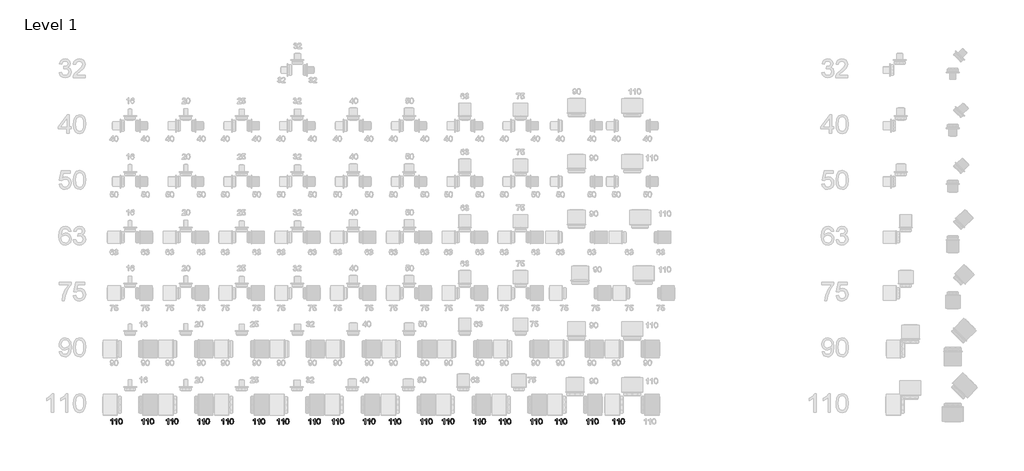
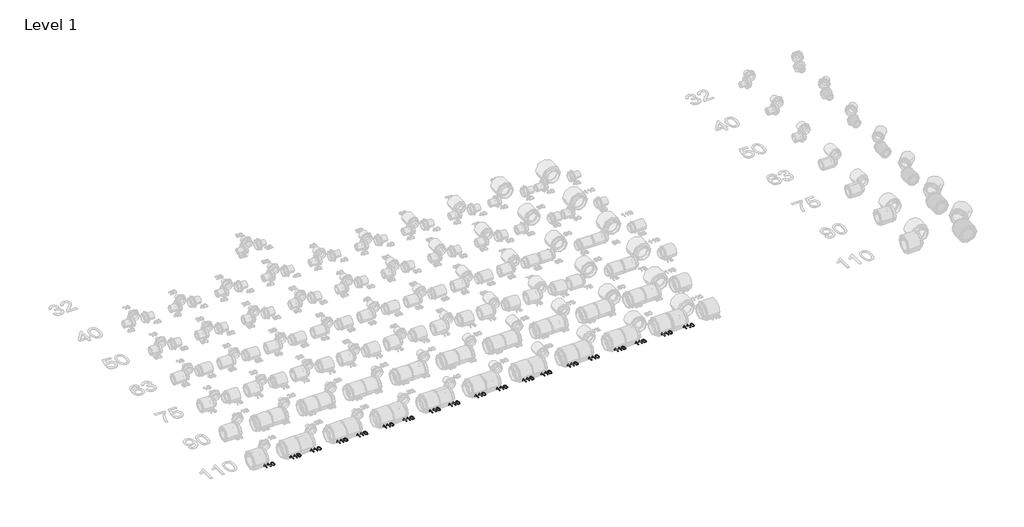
# One storey, part 17 of 58: 19 proxies.
"""IFC4 building model written with IfcOpenShell, lengths in millimetres."""

from ifc_helpers import new_model, si_unit, frame, origin, place, context, project, spatial, polyline, outline, extrude, element, save

model = new_model("IFC4")

# Units and contexts
model_context = context("Model", 3, world=origin())
ifc_project = project(units=[si_unit("LENGTHUNIT", "METRE", prefix="MILLI")], contexts=[model_context])

# Site, building, storey
site = spatial("IfcSite", under=ifc_project)
building = spatial("IfcBuilding", under=site)
storey = spatial("IfcBuildingStorey", under=building, Name="Level 1", Elevation=27.3876384)

# Proxies
placement = place(None, origin())
element("IfcBuildingElementProxy", 1, Name="30mm Arial", ObjectType="30mm Arial", at=placement, inside=storey, context=model_context, shape_type="SweptSolid", body=[
    extrude(outline(polyline([(13172.6620986, 15842.5788539), (13168.894987, 15842.5788539), (13168.894987, 15866.0644405), (13165.3265317, 15863.5223759), (13161.3607637, 15861.620426), (13161.3607637, 15865.1815237), (13166.8826725, 15868.7058332), (13170.2340775, 15872.715747), (13172.6620986, 15872.715747), (13172.6620986, 15842.5788539)])), frame((0.0, 0.0, 27.3876384), z_axis=(0.0, 0.0, 1.0), x_axis=(1.0, 0.0, 0.0)), (0.0, 0.0, 1.0), 2.0),
    extrude(outline(polyline([(13195.7356574, 15842.5788539), (13191.9685457, 15842.5788539), (13191.9685457, 15866.0644405), (13188.4000904, 15863.5223759), (13184.4343225, 15861.620426), (13184.4343225, 15865.1815237), (13189.9562312, 15868.7058332), (13193.3076362, 15872.715747), (13195.7356574, 15872.715747), (13195.7356574, 15842.5788539)])), frame((0.0, 0.0, 27.3876384), z_axis=(0.0, 0.0, 1.0), x_axis=(1.0, 0.0, 0.0)), (0.0, 0.0, 1.0), 2.0),
    extrude(outline(polyline([(13204.6825475, 15857.4044983), (13205.7898723, 15866.075477), (13209.0787373, 15871.0749933), (13214.5712155, 15872.715747), (13218.9710842, 15871.7445385), (13222.0097895, 15868.9449565), (13223.775623, 15864.4862267), (13224.4598836, 15857.4044983), (13223.3635952, 15848.7703079), (13220.0857666, 15843.7597551), (13214.5712155, 15842.107965), (13207.6844646, 15844.9774445), (13204.6825475, 15857.4044983)]), holes=[polyline([(13208.4496591, 15857.411856), (13210.2154927, 15848.0566168), (13214.5712155, 15845.8750766), (13218.9269384, 15848.0639745), (13220.6927719, 15857.411856), (13218.9857995, 15866.6604093), (13214.5270697, 15868.9486353), (13210.2743538, 15866.932642), (13208.4496591, 15857.411856)])]), frame((0.0, 0.0, 27.3876384), z_axis=(0.0, 0.0, 1.0), x_axis=(1.0, 0.0, 0.0)), (0.0, 0.0, 1.0), 2.0),
])
element("IfcBuildingElementProxy", 2, Name="30mm Arial", ObjectType="30mm Arial", at=placement, inside=storey, context=model_context, shape_type="SweptSolid", body=[
    extrude(outline(polyline([(13341.4120986, 15842.5788539), (13337.644987, 15842.5788539), (13337.644987, 15866.0644405), (13334.0765317, 15863.5223759), (13330.1107637, 15861.620426), (13330.1107637, 15865.1815237), (13335.6326725, 15868.7058332), (13338.9840775, 15872.715747), (13341.4120986, 15872.715747), (13341.4120986, 15842.5788539)])), frame((0.0, 0.0, 27.3876384), z_axis=(0.0, 0.0, 1.0), x_axis=(1.0, 0.0, 0.0)), (0.0, 0.0, 1.0), 2.0),
    extrude(outline(polyline([(13364.4856574, 15842.5788539), (13360.7185457, 15842.5788539), (13360.7185457, 15866.0644405), (13357.1500904, 15863.5223759), (13353.1843225, 15861.620426), (13353.1843225, 15865.1815237), (13358.7062312, 15868.7058332), (13362.0576362, 15872.715747), (13364.4856574, 15872.715747), (13364.4856574, 15842.5788539)])), frame((0.0, 0.0, 27.3876384), z_axis=(0.0, 0.0, 1.0), x_axis=(1.0, 0.0, 0.0)), (0.0, 0.0, 1.0), 2.0),
    extrude(outline(polyline([(13373.4325475, 15857.4044983), (13374.5398723, 15866.075477), (13377.8287373, 15871.0749933), (13383.3212155, 15872.715747), (13387.7210842, 15871.7445385), (13390.7597895, 15868.9449565), (13392.525623, 15864.4862267), (13393.2098836, 15857.4044983), (13392.1135952, 15848.7703079), (13388.8357666, 15843.7597551), (13383.3212155, 15842.107965), (13376.4344646, 15844.9774445), (13373.4325475, 15857.4044983)]), holes=[polyline([(13377.1996591, 15857.411856), (13378.9654927, 15848.0566168), (13383.3212155, 15845.8750766), (13387.6769384, 15848.0639745), (13389.4427719, 15857.411856), (13387.7357995, 15866.6604093), (13383.2770697, 15868.9486353), (13379.0243538, 15866.932642), (13377.1996591, 15857.411856)])]), frame((0.0, 0.0, 27.3876384), z_axis=(0.0, 0.0, 1.0), x_axis=(1.0, 0.0, 0.0)), (0.0, 0.0, 1.0), 2.0),
])
element("IfcBuildingElementProxy", 3, Name="30mm Arial", ObjectType="30mm Arial", at=placement, inside=storey, context=model_context, shape_type="SweptSolid", body=[
    extrude(outline(polyline([(13472.6620986, 15842.5788539), (13468.894987, 15842.5788539), (13468.894987, 15866.0644405), (13465.3265317, 15863.5223759), (13461.3607637, 15861.620426), (13461.3607637, 15865.1815237), (13466.8826725, 15868.7058332), (13470.2340775, 15872.715747), (13472.6620986, 15872.715747), (13472.6620986, 15842.5788539)])), frame((0.0, 0.0, 27.3876384), z_axis=(0.0, 0.0, 1.0), x_axis=(1.0, 0.0, 0.0)), (0.0, 0.0, 1.0), 2.0),
    extrude(outline(polyline([(13495.7356574, 15842.5788539), (13491.9685457, 15842.5788539), (13491.9685457, 15866.0644405), (13488.4000904, 15863.5223759), (13484.4343225, 15861.620426), (13484.4343225, 15865.1815237), (13489.9562312, 15868.7058332), (13493.3076362, 15872.715747), (13495.7356574, 15872.715747), (13495.7356574, 15842.5788539)])), frame((0.0, 0.0, 27.3876384), z_axis=(0.0, 0.0, 1.0), x_axis=(1.0, 0.0, 0.0)), (0.0, 0.0, 1.0), 2.0),
    extrude(outline(polyline([(13504.6825475, 15857.4044983), (13505.7898723, 15866.075477), (13509.0787373, 15871.0749933), (13514.5712155, 15872.715747), (13518.9710842, 15871.7445385), (13522.0097895, 15868.9449565), (13523.775623, 15864.4862267), (13524.4598836, 15857.4044983), (13523.3635952, 15848.7703079), (13520.0857666, 15843.7597551), (13514.5712155, 15842.107965), (13507.6844646, 15844.9774445), (13504.6825475, 15857.4044983)]), holes=[polyline([(13508.4496591, 15857.411856), (13510.2154927, 15848.0566168), (13514.5712155, 15845.8750766), (13518.9269384, 15848.0639745), (13520.6927719, 15857.411856), (13518.9857995, 15866.6604093), (13514.5270697, 15868.9486353), (13510.2743538, 15866.932642), (13508.4496591, 15857.411856)])]), frame((0.0, 0.0, 27.3876384), z_axis=(0.0, 0.0, 1.0), x_axis=(1.0, 0.0, 0.0)), (0.0, 0.0, 1.0), 2.0),
])
element("IfcBuildingElementProxy", 4, Name="30mm Arial", ObjectType="30mm Arial", at=placement, inside=storey, context=model_context, shape_type="SweptSolid", body=[
    extrude(outline(polyline([(13641.4120986, 15842.5788539), (13637.644987, 15842.5788539), (13637.644987, 15866.0644405), (13634.0765317, 15863.5223759), (13630.1107637, 15861.620426), (13630.1107637, 15865.1815237), (13635.6326725, 15868.7058332), (13638.9840775, 15872.715747), (13641.4120986, 15872.715747), (13641.4120986, 15842.5788539)])), frame((0.0, 0.0, 27.3876384), z_axis=(0.0, 0.0, 1.0), x_axis=(1.0, 0.0, 0.0)), (0.0, 0.0, 1.0), 2.0),
    extrude(outline(polyline([(13664.4856574, 15842.5788539), (13660.7185457, 15842.5788539), (13660.7185457, 15866.0644405), (13657.1500904, 15863.5223759), (13653.1843225, 15861.620426), (13653.1843225, 15865.1815237), (13658.7062312, 15868.7058332), (13662.0576362, 15872.715747), (13664.4856574, 15872.715747), (13664.4856574, 15842.5788539)])), frame((0.0, 0.0, 27.3876384), z_axis=(0.0, 0.0, 1.0), x_axis=(1.0, 0.0, 0.0)), (0.0, 0.0, 1.0), 2.0),
    extrude(outline(polyline([(13673.4325475, 15857.4044983), (13674.5398723, 15866.075477), (13677.8287373, 15871.0749933), (13683.3212155, 15872.715747), (13687.7210842, 15871.7445385), (13690.7597895, 15868.9449565), (13692.525623, 15864.4862267), (13693.2098836, 15857.4044983), (13692.1135952, 15848.7703079), (13688.8357666, 15843.7597551), (13683.3212155, 15842.107965), (13676.4344646, 15844.9774445), (13673.4325475, 15857.4044983)]), holes=[polyline([(13677.1996591, 15857.411856), (13678.9654927, 15848.0566168), (13683.3212155, 15845.8750766), (13687.6769384, 15848.0639745), (13689.4427719, 15857.411856), (13687.7357995, 15866.6604093), (13683.2770697, 15868.9486353), (13679.0243538, 15866.932642), (13677.1996591, 15857.411856)])]), frame((0.0, 0.0, 27.3876384), z_axis=(0.0, 0.0, 1.0), x_axis=(1.0, 0.0, 0.0)), (0.0, 0.0, 1.0), 2.0),
])
element("IfcBuildingElementProxy", 5, Name="30mm Arial", ObjectType="30mm Arial", at=placement, inside=storey, context=model_context, shape_type="SweptSolid", body=[
    extrude(outline(polyline([(13770.6620986, 15842.5788539), (13766.894987, 15842.5788539), (13766.894987, 15866.0644405), (13763.3265317, 15863.5223759), (13759.3607637, 15861.620426), (13759.3607637, 15865.1815237), (13764.8826725, 15868.7058332), (13768.2340775, 15872.715747), (13770.6620986, 15872.715747), (13770.6620986, 15842.5788539)])), frame((0.0, 0.0, 27.3876384), z_axis=(0.0, 0.0, 1.0), x_axis=(1.0, 0.0, 0.0)), (0.0, 0.0, 1.0), 2.0),
    extrude(outline(polyline([(13793.7356574, 15842.5788539), (13789.9685457, 15842.5788539), (13789.9685457, 15866.0644405), (13786.4000904, 15863.5223759), (13782.4343225, 15861.620426), (13782.4343225, 15865.1815237), (13787.9562312, 15868.7058332), (13791.3076362, 15872.715747), (13793.7356574, 15872.715747), (13793.7356574, 15842.5788539)])), frame((0.0, 0.0, 27.3876384), z_axis=(0.0, 0.0, 1.0), x_axis=(1.0, 0.0, 0.0)), (0.0, 0.0, 1.0), 2.0),
    extrude(outline(polyline([(13802.6825475, 15857.4044983), (13803.7898723, 15866.075477), (13807.0787373, 15871.0749933), (13812.5712155, 15872.715747), (13816.9710842, 15871.7445385), (13820.0097895, 15868.9449565), (13821.775623, 15864.4862267), (13822.4598836, 15857.4044983), (13821.3635952, 15848.7703079), (13818.0857666, 15843.7597551), (13812.5712155, 15842.107965), (13805.6844646, 15844.9774445), (13802.6825475, 15857.4044983)]), holes=[polyline([(13806.4496591, 15857.411856), (13808.2154927, 15848.0566168), (13812.5712155, 15845.8750766), (13816.9269384, 15848.0639745), (13818.6927719, 15857.411856), (13816.9857995, 15866.6604093), (13812.5270697, 15868.9486353), (13808.2743538, 15866.932642), (13806.4496591, 15857.411856)])]), frame((0.0, 0.0, 27.3876384), z_axis=(0.0, 0.0, 1.0), x_axis=(1.0, 0.0, 0.0)), (0.0, 0.0, 1.0), 2.0),
])
element("IfcBuildingElementProxy", 6, Name="30mm Arial", ObjectType="30mm Arial", at=placement, inside=storey, context=model_context, shape_type="SweptSolid", body=[
    extrude(outline(polyline([(13939.4120986, 15842.5788539), (13935.644987, 15842.5788539), (13935.644987, 15866.0644405), (13932.0765317, 15863.5223759), (13928.1107637, 15861.620426), (13928.1107637, 15865.1815237), (13933.6326725, 15868.7058332), (13936.9840775, 15872.715747), (13939.4120986, 15872.715747), (13939.4120986, 15842.5788539)])), frame((0.0, 0.0, 27.3876384), z_axis=(0.0, 0.0, 1.0), x_axis=(1.0, 0.0, 0.0)), (0.0, 0.0, 1.0), 2.0),
    extrude(outline(polyline([(13962.4856574, 15842.5788539), (13958.7185457, 15842.5788539), (13958.7185457, 15866.0644405), (13955.1500904, 15863.5223759), (13951.1843225, 15861.620426), (13951.1843225, 15865.1815237), (13956.7062312, 15868.7058332), (13960.0576362, 15872.715747), (13962.4856574, 15872.715747), (13962.4856574, 15842.5788539)])), frame((0.0, 0.0, 27.3876384), z_axis=(0.0, 0.0, 1.0), x_axis=(1.0, 0.0, 0.0)), (0.0, 0.0, 1.0), 2.0),
    extrude(outline(polyline([(13971.4325475, 15857.4044983), (13972.5398723, 15866.075477), (13975.8287373, 15871.0749933), (13981.3212155, 15872.715747), (13985.7210842, 15871.7445385), (13988.7597895, 15868.9449565), (13990.525623, 15864.4862267), (13991.2098836, 15857.4044983), (13990.1135952, 15848.7703079), (13986.8357666, 15843.7597551), (13981.3212155, 15842.107965), (13974.4344646, 15844.9774445), (13971.4325475, 15857.4044983)]), holes=[polyline([(13975.1996591, 15857.411856), (13976.9654927, 15848.0566168), (13981.3212155, 15845.8750766), (13985.6769384, 15848.0639745), (13987.4427719, 15857.411856), (13985.7357995, 15866.6604093), (13981.2770697, 15868.9486353), (13977.0243538, 15866.932642), (13975.1996591, 15857.411856)])]), frame((0.0, 0.0, 27.3876384), z_axis=(0.0, 0.0, 1.0), x_axis=(1.0, 0.0, 0.0)), (0.0, 0.0, 1.0), 2.0),
])
element("IfcBuildingElementProxy", 7, Name="30mm Arial", ObjectType="30mm Arial", at=placement, inside=storey, context=model_context, shape_type="SweptSolid", body=[
    extrude(outline(polyline([(15562.6620986, 15842.5788539), (15558.894987, 15842.5788539), (15558.894987, 15866.0644405), (15555.3265317, 15863.5223759), (15551.3607637, 15861.620426), (15551.3607637, 15865.1815237), (15556.8826725, 15868.7058332), (15560.2340775, 15872.715747), (15562.6620986, 15872.715747), (15562.6620986, 15842.5788539)])), frame((0.0, 0.0, 27.3876384), z_axis=(0.0, 0.0, 1.0), x_axis=(1.0, 0.0, 0.0)), (0.0, 0.0, 1.0), 2.0),
    extrude(outline(polyline([(15585.7356574, 15842.5788539), (15581.9685457, 15842.5788539), (15581.9685457, 15866.0644405), (15578.4000904, 15863.5223759), (15574.4343225, 15861.620426), (15574.4343225, 15865.1815237), (15579.9562312, 15868.7058332), (15583.3076362, 15872.715747), (15585.7356574, 15872.715747), (15585.7356574, 15842.5788539)])), frame((0.0, 0.0, 27.3876384), z_axis=(0.0, 0.0, 1.0), x_axis=(1.0, 0.0, 0.0)), (0.0, 0.0, 1.0), 2.0),
    extrude(outline(polyline([(15594.6825475, 15857.4044983), (15595.7898723, 15866.075477), (15599.0787373, 15871.0749933), (15604.5712155, 15872.715747), (15608.9710842, 15871.7445385), (15612.0097895, 15868.9449565), (15613.775623, 15864.4862267), (15614.4598836, 15857.4044983), (15613.3635952, 15848.7703079), (15610.0857666, 15843.7597551), (15604.5712155, 15842.107965), (15597.6844646, 15844.9774445), (15594.6825475, 15857.4044983)]), holes=[polyline([(15598.4496591, 15857.411856), (15600.2154927, 15848.0566168), (15604.5712155, 15845.8750766), (15608.9269384, 15848.0639745), (15610.6927719, 15857.411856), (15608.9857995, 15866.6604093), (15604.5270697, 15868.9486353), (15600.2743538, 15866.932642), (15598.4496591, 15857.411856)])]), frame((0.0, 0.0, 27.3876384), z_axis=(0.0, 0.0, 1.0), x_axis=(1.0, 0.0, 0.0)), (0.0, 0.0, 1.0), 2.0),
])
element("IfcBuildingElementProxy", 8, Name="30mm Arial", ObjectType="30mm Arial", at=placement, inside=storey, context=model_context, shape_type="SweptSolid", body=[
    extrude(outline(polyline([(15731.4120986, 15842.5788539), (15727.644987, 15842.5788539), (15727.644987, 15866.0644405), (15724.0765317, 15863.5223759), (15720.1107637, 15861.620426), (15720.1107637, 15865.1815237), (15725.6326725, 15868.7058332), (15728.9840775, 15872.715747), (15731.4120986, 15872.715747), (15731.4120986, 15842.5788539)])), frame((0.0, 0.0, 27.3876384), z_axis=(0.0, 0.0, 1.0), x_axis=(1.0, 0.0, 0.0)), (0.0, 0.0, 1.0), 2.0),
    extrude(outline(polyline([(15754.4856574, 15842.5788539), (15750.7185457, 15842.5788539), (15750.7185457, 15866.0644405), (15747.1500904, 15863.5223759), (15743.1843225, 15861.620426), (15743.1843225, 15865.1815237), (15748.7062312, 15868.7058332), (15752.0576362, 15872.715747), (15754.4856574, 15872.715747), (15754.4856574, 15842.5788539)])), frame((0.0, 0.0, 27.3876384), z_axis=(0.0, 0.0, 1.0), x_axis=(1.0, 0.0, 0.0)), (0.0, 0.0, 1.0), 2.0),
    extrude(outline(polyline([(15763.4325475, 15857.4044983), (15764.5398723, 15866.075477), (15767.8287373, 15871.0749933), (15773.3212155, 15872.715747), (15777.7210842, 15871.7445385), (15780.7597895, 15868.9449565), (15782.525623, 15864.4862267), (15783.2098836, 15857.4044983), (15782.1135952, 15848.7703079), (15778.8357666, 15843.7597551), (15773.3212155, 15842.107965), (15766.4344646, 15844.9774445), (15763.4325475, 15857.4044983)]), holes=[polyline([(15767.1996591, 15857.411856), (15768.9654927, 15848.0566168), (15773.3212155, 15845.8750766), (15777.6769384, 15848.0639745), (15779.4427719, 15857.411856), (15777.7357995, 15866.6604093), (15773.2770697, 15868.9486353), (15769.0243538, 15866.932642), (15767.1996591, 15857.411856)])]), frame((0.0, 0.0, 27.3876384), z_axis=(0.0, 0.0, 1.0), x_axis=(1.0, 0.0, 0.0)), (0.0, 0.0, 1.0), 2.0),
])
element("IfcBuildingElementProxy", 9, Name="30mm Arial", ObjectType="30mm Arial", at=placement, inside=storey, context=model_context, shape_type="SweptSolid", body=[
    extrude(outline(polyline([(15872.6620986, 15842.5788539), (15868.894987, 15842.5788539), (15868.894987, 15866.0644405), (15865.3265317, 15863.5223759), (15861.3607637, 15861.620426), (15861.3607637, 15865.1815237), (15866.8826725, 15868.7058332), (15870.2340775, 15872.715747), (15872.6620986, 15872.715747), (15872.6620986, 15842.5788539)])), frame((0.0, 0.0, 27.3876384), z_axis=(0.0, 0.0, 1.0), x_axis=(1.0, 0.0, 0.0)), (0.0, 0.0, 1.0), 2.0),
    extrude(outline(polyline([(15895.7356574, 15842.5788539), (15891.9685457, 15842.5788539), (15891.9685457, 15866.0644405), (15888.4000904, 15863.5223759), (15884.4343225, 15861.620426), (15884.4343225, 15865.1815237), (15889.9562312, 15868.7058332), (15893.3076362, 15872.715747), (15895.7356574, 15872.715747), (15895.7356574, 15842.5788539)])), frame((0.0, 0.0, 27.3876384), z_axis=(0.0, 0.0, 1.0), x_axis=(1.0, 0.0, 0.0)), (0.0, 0.0, 1.0), 2.0),
    extrude(outline(polyline([(15904.6825475, 15857.4044983), (15905.7898723, 15866.075477), (15909.0787373, 15871.0749933), (15914.5712155, 15872.715747), (15918.9710842, 15871.7445385), (15922.0097895, 15868.9449565), (15923.775623, 15864.4862267), (15924.4598836, 15857.4044983), (15923.3635952, 15848.7703079), (15920.0857666, 15843.7597551), (15914.5712155, 15842.107965), (15907.6844646, 15844.9774445), (15904.6825475, 15857.4044983)]), holes=[polyline([(15908.4496591, 15857.411856), (15910.2154927, 15848.0566168), (15914.5712155, 15845.8750766), (15918.9269384, 15848.0639745), (15920.6927719, 15857.411856), (15918.9857995, 15866.6604093), (15914.5270697, 15868.9486353), (15910.2743538, 15866.932642), (15908.4496591, 15857.411856)])]), frame((0.0, 0.0, 27.3876384), z_axis=(0.0, 0.0, 1.0), x_axis=(1.0, 0.0, 0.0)), (0.0, 0.0, 1.0), 2.0),
])
element("IfcBuildingElementProxy", 10, Name="30mm Arial", ObjectType="30mm Arial", at=placement, inside=storey, context=model_context, shape_type="SweptSolid", body=[
    extrude(outline(polyline([(14069.0934558, 15842.5788539), (14065.3263441, 15842.5788539), (14065.3263441, 15866.0644405), (14061.7578888, 15863.5223759), (14057.7921209, 15861.620426), (14057.7921209, 15865.1815237), (14063.3140296, 15868.7058332), (14066.6654346, 15872.715747), (14069.0934558, 15872.715747), (14069.0934558, 15842.5788539)])), frame((0.0, 0.0, 27.3876384), z_axis=(0.0, 0.0, 1.0), x_axis=(1.0, 0.0, 0.0)), (0.0, 0.0, 1.0), 2.0),
    extrude(outline(polyline([(14092.1670145, 15842.5788539), (14088.3999029, 15842.5788539), (14088.3999029, 15866.0644405), (14084.8314475, 15863.5223759), (14080.8656796, 15861.620426), (14080.8656796, 15865.1815237), (14086.3875884, 15868.7058332), (14089.7389933, 15872.715747), (14092.1670145, 15872.715747), (14092.1670145, 15842.5788539)])), frame((0.0, 0.0, 27.3876384), z_axis=(0.0, 0.0, 1.0), x_axis=(1.0, 0.0, 0.0)), (0.0, 0.0, 1.0), 2.0),
    extrude(outline(polyline([(14101.1139046, 15857.4044983), (14102.2212294, 15866.075477), (14105.5100945, 15871.0749933), (14111.0025727, 15872.715747), (14115.4024413, 15871.7445385), (14118.4411466, 15868.9449565), (14120.2069802, 15864.4862267), (14120.8912407, 15857.4044983), (14119.7949523, 15848.7703079), (14116.5171238, 15843.7597551), (14111.0025727, 15842.107965), (14104.1158217, 15844.9774445), (14101.1139046, 15857.4044983)]), holes=[polyline([(14104.8810163, 15857.411856), (14106.6468498, 15848.0566168), (14111.0025727, 15845.8750766), (14115.3582955, 15848.0639745), (14117.1241291, 15857.411856), (14115.4171566, 15866.6604093), (14110.9584268, 15868.9486353), (14106.705711, 15866.932642), (14104.8810163, 15857.411856)])]), frame((0.0, 0.0, 27.3876384), z_axis=(0.0, 0.0, 1.0), x_axis=(1.0, 0.0, 0.0)), (0.0, 0.0, 1.0), 2.0),
])
element("IfcBuildingElementProxy", 11, Name="30mm Arial", ObjectType="30mm Arial", at=placement, inside=storey, context=model_context, shape_type="SweptSolid", body=[
    extrude(outline(polyline([(14237.8434558, 15842.5788539), (14234.0763441, 15842.5788539), (14234.0763441, 15866.0644405), (14230.5078888, 15863.5223759), (14226.5421209, 15861.620426), (14226.5421209, 15865.1815237), (14232.0640296, 15868.7058332), (14235.4154346, 15872.715747), (14237.8434558, 15872.715747), (14237.8434558, 15842.5788539)])), frame((0.0, 0.0, 27.3876384), z_axis=(0.0, 0.0, 1.0), x_axis=(1.0, 0.0, 0.0)), (0.0, 0.0, 1.0), 2.0),
    extrude(outline(polyline([(14260.9170145, 15842.5788539), (14257.1499029, 15842.5788539), (14257.1499029, 15866.0644405), (14253.5814475, 15863.5223759), (14249.6156796, 15861.620426), (14249.6156796, 15865.1815237), (14255.1375884, 15868.7058332), (14258.4889933, 15872.715747), (14260.9170145, 15872.715747), (14260.9170145, 15842.5788539)])), frame((0.0, 0.0, 27.3876384), z_axis=(0.0, 0.0, 1.0), x_axis=(1.0, 0.0, 0.0)), (0.0, 0.0, 1.0), 2.0),
    extrude(outline(polyline([(14269.8639046, 15857.4044983), (14270.9712294, 15866.075477), (14274.2600945, 15871.0749933), (14279.7525727, 15872.715747), (14284.1524413, 15871.7445385), (14287.1911466, 15868.9449565), (14288.9569802, 15864.4862267), (14289.6412407, 15857.4044983), (14288.5449523, 15848.7703079), (14285.2671238, 15843.7597551), (14279.7525727, 15842.107965), (14272.8658217, 15844.9774445), (14269.8639046, 15857.4044983)]), holes=[polyline([(14273.6310163, 15857.411856), (14275.3968498, 15848.0566168), (14279.7525727, 15845.8750766), (14284.1082955, 15848.0639745), (14285.8741291, 15857.411856), (14284.1671566, 15866.6604093), (14279.7084268, 15868.9486353), (14275.455711, 15866.932642), (14273.6310163, 15857.411856)])]), frame((0.0, 0.0, 27.3876384), z_axis=(0.0, 0.0, 1.0), x_axis=(1.0, 0.0, 0.0)), (0.0, 0.0, 1.0), 2.0),
])
element("IfcBuildingElementProxy", 12, Name="30mm Arial", ObjectType="30mm Arial", at=placement, inside=storey, context=model_context, shape_type="SweptSolid", body=[
    extrude(outline(polyline([(14363.0706135, 15842.5788539), (14359.3035019, 15842.5788539), (14359.3035019, 15866.0644405), (14355.7350466, 15863.5223759), (14351.7692786, 15861.620426), (14351.7692786, 15865.1815237), (14357.2911874, 15868.7058332), (14360.6425924, 15872.715747), (14363.0706135, 15872.715747), (14363.0706135, 15842.5788539)])), frame((0.0, 0.0, 27.3876384), z_axis=(0.0, 0.0, 1.0), x_axis=(1.0, 0.0, 0.0)), (0.0, 0.0, 1.0), 2.0),
    extrude(outline(polyline([(14386.1441723, 15842.5788539), (14382.3770606, 15842.5788539), (14382.3770606, 15866.0644405), (14378.8086053, 15863.5223759), (14374.8428374, 15861.620426), (14374.8428374, 15865.1815237), (14380.3647461, 15868.7058332), (14383.7161511, 15872.715747), (14386.1441723, 15872.715747), (14386.1441723, 15842.5788539)])), frame((0.0, 0.0, 27.3876384), z_axis=(0.0, 0.0, 1.0), x_axis=(1.0, 0.0, 0.0)), (0.0, 0.0, 1.0), 2.0),
    extrude(outline(polyline([(14395.0910624, 15857.4044983), (14396.1983872, 15866.075477), (14399.4872522, 15871.0749933), (14404.9797304, 15872.715747), (14409.3795991, 15871.7445385), (14412.4183044, 15868.9449565), (14414.1841379, 15864.4862267), (14414.8683985, 15857.4044983), (14413.7721101, 15848.7703079), (14410.4942815, 15843.7597551), (14404.9797304, 15842.107965), (14398.0929795, 15844.9774445), (14395.0910624, 15857.4044983)]), holes=[polyline([(14398.858174, 15857.411856), (14400.6240076, 15848.0566168), (14404.9797304, 15845.8750766), (14409.3354533, 15848.0639745), (14411.1012868, 15857.411856), (14409.3943144, 15866.6604093), (14404.9355846, 15868.9486353), (14400.6828687, 15866.932642), (14398.858174, 15857.411856)])]), frame((0.0, 0.0, 27.3876384), z_axis=(0.0, 0.0, 1.0), x_axis=(1.0, 0.0, 0.0)), (0.0, 0.0, 1.0), 2.0),
])
element("IfcBuildingElementProxy", 13, Name="30mm Arial", ObjectType="30mm Arial", at=placement, inside=storey, context=model_context, shape_type="SweptSolid", body=[
    extrude(outline(polyline([(14531.8206135, 15842.5788539), (14528.0535019, 15842.5788539), (14528.0535019, 15866.0644405), (14524.4850466, 15863.5223759), (14520.5192786, 15861.620426), (14520.5192786, 15865.1815237), (14526.0411874, 15868.7058332), (14529.3925924, 15872.715747), (14531.8206135, 15872.715747), (14531.8206135, 15842.5788539)])), frame((0.0, 0.0, 27.3876384), z_axis=(0.0, 0.0, 1.0), x_axis=(1.0, 0.0, 0.0)), (0.0, 0.0, 1.0), 2.0),
    extrude(outline(polyline([(14554.8941723, 15842.5788539), (14551.1270606, 15842.5788539), (14551.1270606, 15866.0644405), (14547.5586053, 15863.5223759), (14543.5928374, 15861.620426), (14543.5928374, 15865.1815237), (14549.1147461, 15868.7058332), (14552.4661511, 15872.715747), (14554.8941723, 15872.715747), (14554.8941723, 15842.5788539)])), frame((0.0, 0.0, 27.3876384), z_axis=(0.0, 0.0, 1.0), x_axis=(1.0, 0.0, 0.0)), (0.0, 0.0, 1.0), 2.0),
    extrude(outline(polyline([(14563.8410624, 15857.4044983), (14564.9483872, 15866.075477), (14568.2372522, 15871.0749933), (14573.7297304, 15872.715747), (14578.1295991, 15871.7445385), (14581.1683044, 15868.9449565), (14582.9341379, 15864.4862267), (14583.6183985, 15857.4044983), (14582.5221101, 15848.7703079), (14579.2442815, 15843.7597551), (14573.7297304, 15842.107965), (14566.8429795, 15844.9774445), (14563.8410624, 15857.4044983)]), holes=[polyline([(14567.608174, 15857.411856), (14569.3740076, 15848.0566168), (14573.7297304, 15845.8750766), (14578.0854533, 15848.0639745), (14579.8512868, 15857.411856), (14578.1443144, 15866.6604093), (14573.6855846, 15868.9486353), (14569.4328687, 15866.932642), (14567.608174, 15857.411856)])]), frame((0.0, 0.0, 27.3876384), z_axis=(0.0, 0.0, 1.0), x_axis=(1.0, 0.0, 0.0)), (0.0, 0.0, 1.0), 2.0),
])
element("IfcBuildingElementProxy", 14, Name="30mm Arial", ObjectType="30mm Arial", at=placement, inside=storey, context=model_context, shape_type="SweptSolid", body=[
    extrude(outline(polyline([(14670.4103694, 15842.5788539), (14666.6432578, 15842.5788539), (14666.6432578, 15866.0644405), (14663.0748024, 15863.5223759), (14659.1090345, 15861.620426), (14659.1090345, 15865.1815237), (14664.6309432, 15868.7058332), (14667.9823482, 15872.715747), (14670.4103694, 15872.715747), (14670.4103694, 15842.5788539)])), frame((0.0, 0.0, 27.3876384), z_axis=(0.0, 0.0, 1.0), x_axis=(1.0, 0.0, 0.0)), (0.0, 0.0, 1.0), 2.0),
    extrude(outline(polyline([(14693.4839281, 15842.5788539), (14689.7168165, 15842.5788539), (14689.7168165, 15866.0644405), (14686.1483611, 15863.5223759), (14682.1825932, 15861.620426), (14682.1825932, 15865.1815237), (14687.704502, 15868.7058332), (14691.055907, 15872.715747), (14693.4839281, 15872.715747), (14693.4839281, 15842.5788539)])), frame((0.0, 0.0, 27.3876384), z_axis=(0.0, 0.0, 1.0), x_axis=(1.0, 0.0, 0.0)), (0.0, 0.0, 1.0), 2.0),
    extrude(outline(polyline([(14702.4308182, 15857.4044983), (14703.5381431, 15866.075477), (14706.8270081, 15871.0749933), (14712.3194863, 15872.715747), (14716.7193549, 15871.7445385), (14719.7580602, 15868.9449565), (14721.5238938, 15864.4862267), (14722.2081543, 15857.4044983), (14721.111866, 15848.7703079), (14717.8340374, 15843.7597551), (14712.3194863, 15842.107965), (14705.4327353, 15844.9774445), (14702.4308182, 15857.4044983)]), holes=[polyline([(14706.1979299, 15857.411856), (14707.9637635, 15848.0566168), (14712.3194863, 15845.8750766), (14716.6752091, 15848.0639745), (14718.4410427, 15857.411856), (14716.7340702, 15866.6604093), (14712.2753404, 15868.9486353), (14708.0226246, 15866.932642), (14706.1979299, 15857.411856)])]), frame((0.0, 0.0, 27.3876384), z_axis=(0.0, 0.0, 1.0), x_axis=(1.0, 0.0, 0.0)), (0.0, 0.0, 1.0), 2.0),
])
element("IfcBuildingElementProxy", 15, Name="30mm Arial", ObjectType="30mm Arial", at=placement, inside=storey, context=model_context, shape_type="SweptSolid", body=[
    extrude(outline(polyline([(14839.1603694, 15842.5788539), (14835.3932578, 15842.5788539), (14835.3932578, 15866.0644405), (14831.8248024, 15863.5223759), (14827.8590345, 15861.620426), (14827.8590345, 15865.1815237), (14833.3809432, 15868.7058332), (14836.7323482, 15872.715747), (14839.1603694, 15872.715747), (14839.1603694, 15842.5788539)])), frame((0.0, 0.0, 27.3876384), z_axis=(0.0, 0.0, 1.0), x_axis=(1.0, 0.0, 0.0)), (0.0, 0.0, 1.0), 2.0),
    extrude(outline(polyline([(14862.2339281, 15842.5788539), (14858.4668165, 15842.5788539), (14858.4668165, 15866.0644405), (14854.8983611, 15863.5223759), (14850.9325932, 15861.620426), (14850.9325932, 15865.1815237), (14856.454502, 15868.7058332), (14859.805907, 15872.715747), (14862.2339281, 15872.715747), (14862.2339281, 15842.5788539)])), frame((0.0, 0.0, 27.3876384), z_axis=(0.0, 0.0, 1.0), x_axis=(1.0, 0.0, 0.0)), (0.0, 0.0, 1.0), 2.0),
    extrude(outline(polyline([(14871.1808182, 15857.4044983), (14872.2881431, 15866.075477), (14875.5770081, 15871.0749933), (14881.0694863, 15872.715747), (14885.4693549, 15871.7445385), (14888.5080602, 15868.9449565), (14890.2738938, 15864.4862267), (14890.9581543, 15857.4044983), (14889.861866, 15848.7703079), (14886.5840374, 15843.7597551), (14881.0694863, 15842.107965), (14874.1827353, 15844.9774445), (14871.1808182, 15857.4044983)]), holes=[polyline([(14874.9479299, 15857.411856), (14876.7137635, 15848.0566168), (14881.0694863, 15845.8750766), (14885.4252091, 15848.0639745), (14887.1910427, 15857.411856), (14885.4840702, 15866.6604093), (14881.0253404, 15868.9486353), (14876.7726246, 15866.932642), (14874.9479299, 15857.411856)])]), frame((0.0, 0.0, 27.3876384), z_axis=(0.0, 0.0, 1.0), x_axis=(1.0, 0.0, 0.0)), (0.0, 0.0, 1.0), 2.0),
])
element("IfcBuildingElementProxy", 16, Name="30mm Arial", ObjectType="30mm Arial", at=placement, inside=storey, context=model_context, shape_type="SweptSolid", body=[
    extrude(outline(polyline([(14956.5926783, 15842.5788539), (14952.8255666, 15842.5788539), (14952.8255666, 15866.0644405), (14949.2571113, 15863.5223759), (14945.2913434, 15861.620426), (14945.2913434, 15865.1815237), (14950.8132521, 15868.7058332), (14954.1646571, 15872.715747), (14956.5926783, 15872.715747), (14956.5926783, 15842.5788539)])), frame((0.0, 0.0, 27.3876384), z_axis=(0.0, 0.0, 1.0), x_axis=(1.0, 0.0, 0.0)), (0.0, 0.0, 1.0), 2.0),
    extrude(outline(polyline([(14979.666237, 15842.5788539), (14975.8991254, 15842.5788539), (14975.8991254, 15866.0644405), (14972.33067, 15863.5223759), (14968.3649021, 15861.620426), (14968.3649021, 15865.1815237), (14973.8868109, 15868.7058332), (14977.2382158, 15872.715747), (14979.666237, 15872.715747), (14979.666237, 15842.5788539)])), frame((0.0, 0.0, 27.3876384), z_axis=(0.0, 0.0, 1.0), x_axis=(1.0, 0.0, 0.0)), (0.0, 0.0, 1.0), 2.0),
    extrude(outline(polyline([(14988.6131271, 15857.4044983), (14989.7204519, 15866.075477), (14993.009317, 15871.0749933), (14998.5017952, 15872.715747), (15002.9016638, 15871.7445385), (15005.9403691, 15868.9449565), (15007.7062027, 15864.4862267), (15008.3904632, 15857.4044983), (15007.2941749, 15848.7703079), (15004.0163463, 15843.7597551), (14998.5017952, 15842.107965), (14991.6150442, 15844.9774445), (14988.6131271, 15857.4044983)]), holes=[polyline([(14992.3802388, 15857.411856), (14994.1460723, 15848.0566168), (14998.5017952, 15845.8750766), (15002.857518, 15848.0639745), (15004.6233516, 15857.411856), (15002.9163791, 15866.6604093), (14998.4576493, 15868.9486353), (14994.2049335, 15866.932642), (14992.3802388, 15857.411856)])]), frame((0.0, 0.0, 27.3876384), z_axis=(0.0, 0.0, 1.0), x_axis=(1.0, 0.0, 0.0)), (0.0, 0.0, 1.0), 2.0),
])
element("IfcBuildingElementProxy", 17, Name="30mm Arial", ObjectType="30mm Arial", at=placement, inside=storey, context=model_context, shape_type="SweptSolid", body=[
    extrude(outline(polyline([(15125.3426783, 15842.5788539), (15121.5755666, 15842.5788539), (15121.5755666, 15866.0644405), (15118.0071113, 15863.5223759), (15114.0413434, 15861.620426), (15114.0413434, 15865.1815237), (15119.5632521, 15868.7058332), (15122.9146571, 15872.715747), (15125.3426783, 15872.715747), (15125.3426783, 15842.5788539)])), frame((0.0, 0.0, 27.3876384), z_axis=(0.0, 0.0, 1.0), x_axis=(1.0, 0.0, 0.0)), (0.0, 0.0, 1.0), 2.0),
    extrude(outline(polyline([(15148.416237, 15842.5788539), (15144.6491254, 15842.5788539), (15144.6491254, 15866.0644405), (15141.08067, 15863.5223759), (15137.1149021, 15861.620426), (15137.1149021, 15865.1815237), (15142.6368109, 15868.7058332), (15145.9882158, 15872.715747), (15148.416237, 15872.715747), (15148.416237, 15842.5788539)])), frame((0.0, 0.0, 27.3876384), z_axis=(0.0, 0.0, 1.0), x_axis=(1.0, 0.0, 0.0)), (0.0, 0.0, 1.0), 2.0),
    extrude(outline(polyline([(15157.3631271, 15857.4044983), (15158.4704519, 15866.075477), (15161.759317, 15871.0749933), (15167.2517952, 15872.715747), (15171.6516638, 15871.7445385), (15174.6903691, 15868.9449565), (15176.4562027, 15864.4862267), (15177.1404632, 15857.4044983), (15176.0441749, 15848.7703079), (15172.7663463, 15843.7597551), (15167.2517952, 15842.107965), (15160.3650442, 15844.9774445), (15157.3631271, 15857.4044983)]), holes=[polyline([(15161.1302388, 15857.411856), (15162.8960723, 15848.0566168), (15167.2517952, 15845.8750766), (15171.607518, 15848.0639745), (15173.3733516, 15857.411856), (15171.6663791, 15866.6604093), (15167.2076493, 15868.9486353), (15162.9549335, 15866.932642), (15161.1302388, 15857.411856)])]), frame((0.0, 0.0, 27.3876384), z_axis=(0.0, 0.0, 1.0), x_axis=(1.0, 0.0, 0.0)), (0.0, 0.0, 1.0), 2.0),
])
element("IfcBuildingElementProxy", 18, Name="30mm Arial", ObjectType="30mm Arial", at=placement, inside=storey, context=model_context, shape_type="SweptSolid", body=[
    extrude(outline(polyline([(15261.7053344, 15842.5788539), (15257.9382228, 15842.5788539), (15257.9382228, 15866.0644405), (15254.3697675, 15863.5223759), (15250.4039996, 15861.620426), (15250.4039996, 15865.1815237), (15255.9259083, 15868.7058332), (15259.2773133, 15872.715747), (15261.7053344, 15872.715747), (15261.7053344, 15842.5788539)])), frame((0.0, 0.0, 27.3876384), z_axis=(0.0, 0.0, 1.0), x_axis=(1.0, 0.0, 0.0)), (0.0, 0.0, 1.0), 2.0),
    extrude(outline(polyline([(15284.7788932, 15842.5788539), (15281.0117816, 15842.5788539), (15281.0117816, 15866.0644405), (15277.4433262, 15863.5223759), (15273.4775583, 15861.620426), (15273.4775583, 15865.1815237), (15278.999467, 15868.7058332), (15282.350872, 15872.715747), (15284.7788932, 15872.715747), (15284.7788932, 15842.5788539)])), frame((0.0, 0.0, 27.3876384), z_axis=(0.0, 0.0, 1.0), x_axis=(1.0, 0.0, 0.0)), (0.0, 0.0, 1.0), 2.0),
    extrude(outline(polyline([(15293.7257833, 15857.4044983), (15294.8331081, 15866.075477), (15298.1219732, 15871.0749933), (15303.6144513, 15872.715747), (15308.01432, 15871.7445385), (15311.0530253, 15868.9449565), (15312.8188589, 15864.4862267), (15313.5031194, 15857.4044983), (15312.406831, 15848.7703079), (15309.1290024, 15843.7597551), (15303.6144513, 15842.107965), (15296.7277004, 15844.9774445), (15293.7257833, 15857.4044983)]), holes=[polyline([(15297.4928949, 15857.411856), (15299.2587285, 15848.0566168), (15303.6144513, 15845.8750766), (15307.9701742, 15848.0639745), (15309.7360077, 15857.411856), (15308.0290353, 15866.6604093), (15303.5703055, 15868.9486353), (15299.3175896, 15866.932642), (15297.4928949, 15857.411856)])]), frame((0.0, 0.0, 27.3876384), z_axis=(0.0, 0.0, 1.0), x_axis=(1.0, 0.0, 0.0)), (0.0, 0.0, 1.0), 2.0),
])
element("IfcBuildingElementProxy", 19, Name="30mm Arial", ObjectType="30mm Arial", at=placement, inside=storey, context=model_context, shape_type="SweptSolid", body=[
    extrude(outline(polyline([(15430.4553344, 15842.5788539), (15426.6882228, 15842.5788539), (15426.6882228, 15866.0644405), (15423.1197675, 15863.5223759), (15419.1539996, 15861.620426), (15419.1539996, 15865.1815237), (15424.6759083, 15868.7058332), (15428.0273133, 15872.715747), (15430.4553344, 15872.715747), (15430.4553344, 15842.5788539)])), frame((0.0, 0.0, 27.3876384), z_axis=(0.0, 0.0, 1.0), x_axis=(1.0, 0.0, 0.0)), (0.0, 0.0, 1.0), 2.0),
    extrude(outline(polyline([(15453.5288932, 15842.5788539), (15449.7617816, 15842.5788539), (15449.7617816, 15866.0644405), (15446.1933262, 15863.5223759), (15442.2275583, 15861.620426), (15442.2275583, 15865.1815237), (15447.749467, 15868.7058332), (15451.100872, 15872.715747), (15453.5288932, 15872.715747), (15453.5288932, 15842.5788539)])), frame((0.0, 0.0, 27.3876384), z_axis=(0.0, 0.0, 1.0), x_axis=(1.0, 0.0, 0.0)), (0.0, 0.0, 1.0), 2.0),
    extrude(outline(polyline([(15462.4757833, 15857.4044983), (15463.5831081, 15866.075477), (15466.8719732, 15871.0749933), (15472.3644513, 15872.715747), (15476.76432, 15871.7445385), (15479.8030253, 15868.9449565), (15481.5688589, 15864.4862267), (15482.2531194, 15857.4044983), (15481.156831, 15848.7703079), (15477.8790024, 15843.7597551), (15472.3644513, 15842.107965), (15465.4777004, 15844.9774445), (15462.4757833, 15857.4044983)]), holes=[polyline([(15466.2428949, 15857.411856), (15468.0087285, 15848.0566168), (15472.3644513, 15845.8750766), (15476.7201742, 15848.0639745), (15478.4860077, 15857.411856), (15476.7790353, 15866.6604093), (15472.3203055, 15868.9486353), (15468.0675896, 15866.932642), (15466.2428949, 15857.411856)])]), frame((0.0, 0.0, 27.3876384), z_axis=(0.0, 0.0, 1.0), x_axis=(1.0, 0.0, 0.0)), (0.0, 0.0, 1.0), 2.0),
])

save(model, "model.ifc")
